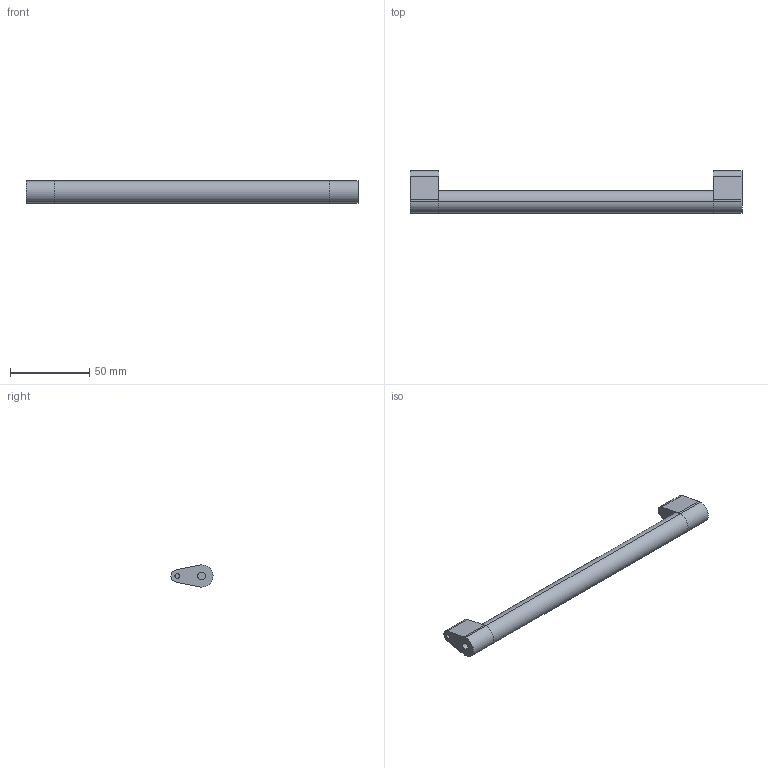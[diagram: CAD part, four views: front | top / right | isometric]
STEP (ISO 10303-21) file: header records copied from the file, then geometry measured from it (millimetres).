
FILE_DESCRIPTION (( 'STEP AP214' ), '1' );
FILE_NAME ('_Synchronisationseinheit Nova Pro KAB300_S19.step', '2010-07-08T13:58:39', ( 'grass' ), ( '' ), 'SwSTEP 2.0', 'SolidWorks 2010', '' );
FILE_SCHEMA (( 'AUTOMOTIVE_DESIGN' ));
Length unit declared in the file: millimetre
Products named in the file (1): _Synchronisationseinheit Nova Pro KAB300_S19
Bounding box: 209 x 26.5 x 14 mm (x, y, z)
Volume: 35859.9 mm3; surface area: 12039.3 mm2
Topology: 3 solids, 3 shells, 36 faces, 78 edges, 52 vertices
Faces by surface type: cylinder 18, plane 18
Entity records: 1050 total; most frequent: DIRECTION 188, CARTESIAN_POINT 167, ORIENTED_EDGE 156, EDGE_CURVE 78, AXIS2_PLACEMENT_3D 73, VERTEX_POINT 52, VECTOR 42, LINE 42
